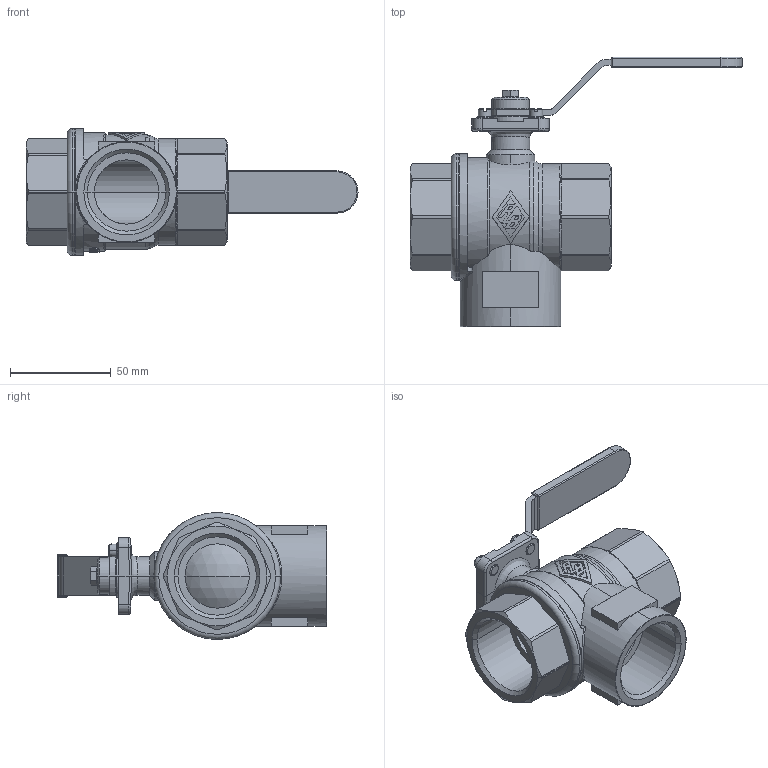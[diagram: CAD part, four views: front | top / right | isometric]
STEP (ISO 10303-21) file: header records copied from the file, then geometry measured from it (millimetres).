
FILE_DESCRIPTION(('CoCreate Modeling STEP Export'),'2;1');
FILE_NAME('3210070000.stp','2010-11-25T11:29:52',(''),(''),'CoCreate Modeling STEP processor for AP214 (Solid Model)','CoCreate Modeling 16.00D 29-May-2009 (C) Parametric Technology GmbH','');
FILE_SCHEMA(('AUTOMOTIVE_DESIGN { 1 0 10303 214 1 1 1 1 }'));
Products named in the file (2): 3210070000
Assembly tree (1 placements, depth 2):
  3210070000
    3210070000
Bounding box: 165 x 134 x 63 mm (x, y, z)
Volume: 179575.9 mm3; surface area: 53118.1 mm2
Topology: 1 solids, 1 shells, 792 faces, 2153 edges, 1393 vertices
Faces by surface type: plane 471, cylinder 183, cone 50, bspline 47, torus 28, extrusion 7, sphere 6
Entity records: 47870 total; most frequent: CARTESIAN_POINT 27981, ORIENTED_EDGE 4294, DIRECTION 3626, EDGE_CURVE 2147, VERTEX_POINT 1393, AXIS2_PLACEMENT_3D 1355, VECTOR 916, LINE 909
